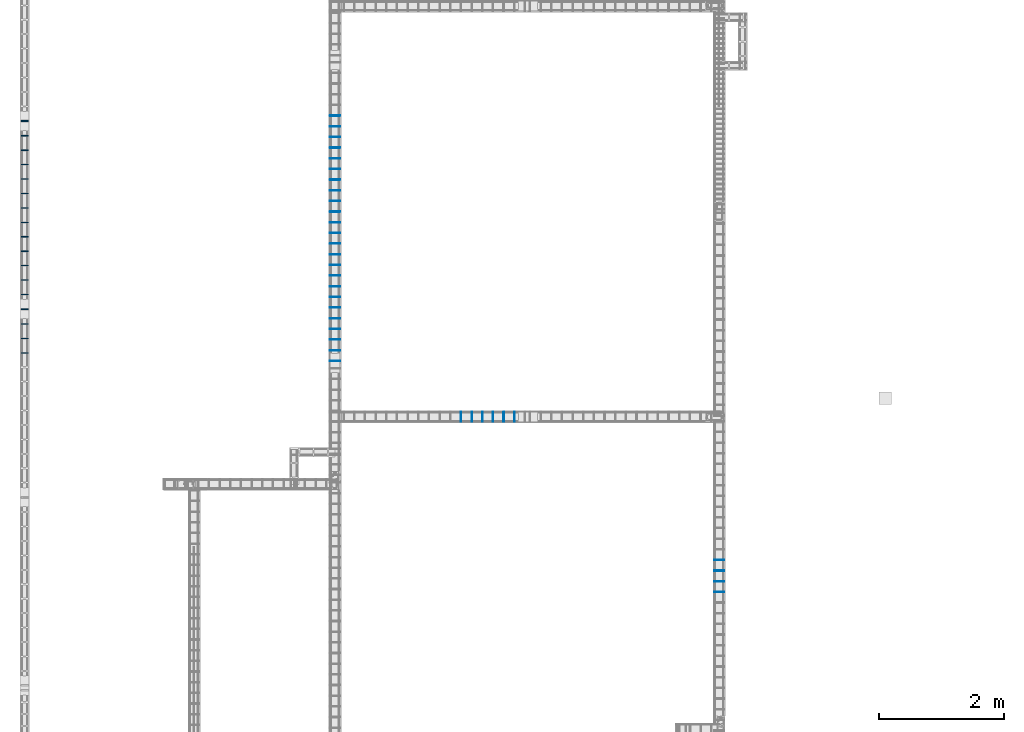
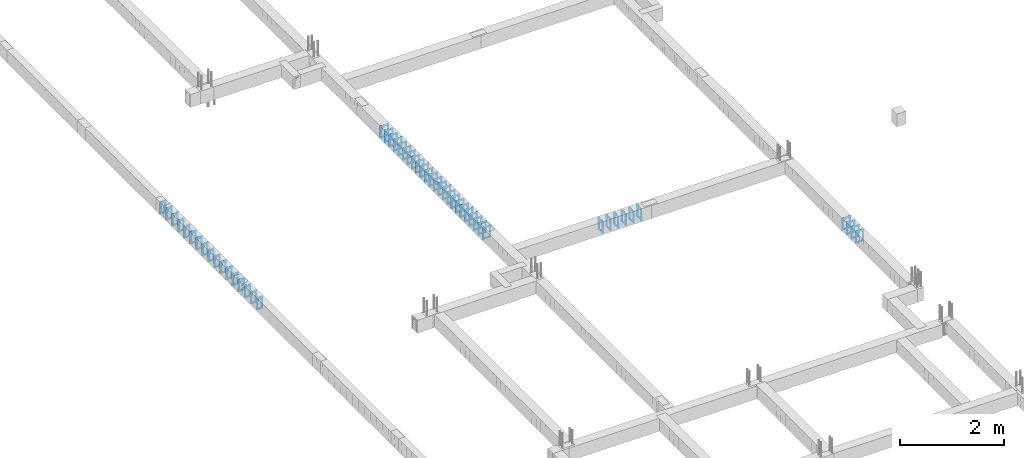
# One storey, part 59 of 150: 53 reinforcing bars.
"""IFC4 building model written with IfcOpenShell, lengths in centimetres."""

import ifcopenshell
import ifcopenshell.guid

model = None  # the IFC model being written
_history = None  # IfcOwnerHistory: only IFC2X3 demands one
_inside = {}  # id of a spatial element -> (the spatial element, [elements in it])
_under = {}  # id of a project, library or spatial element -> (it, [spatial elements below it])
_declared = {}  # id of a project -> (the project, [libraries it declares])
_typed = {}  # id of a type object -> (the type object, [elements of that type])
_made_of = {}  # id of a material, layer set ... -> (it, [elements and type objects made of it])


def new_model(schema):
    """Start an empty IFC model of exactly this schema.

    Asked for "IFC4X3", IfcOpenShell would pick the latest addendum, in which some entities
    have other attributes; the version numbers below select the first issue.
    IFC2X3 requires an IfcOwnerHistory on every rooted entity: one is made here for all.
    """
    global model, _history
    if schema == "IFC4X3":
        model = ifcopenshell.file(schema_version=(4, 3, 0, 0))
    else:
        model = ifcopenshell.file(schema=schema)
    _inside.clear()
    _under.clear()
    _declared.clear()
    _typed.clear()
    _made_of.clear()
    _history = None
    if model.schema == "IFC2X3":
        org = make("IfcOrganization", Name="unknown")
        user = make(
            "IfcPersonAndOrganization",
            ThePerson=make("IfcPerson", FamilyName="unknown"),
            TheOrganization=org,
        )
        app = make(
            "IfcApplication",
            ApplicationDeveloper=org,
            Version="unknown",
            ApplicationFullName="unknown",
            ApplicationIdentifier="unknown",
        )
        _history = make(
            "IfcOwnerHistory",
            OwningUser=user,
            OwningApplication=app,
            ChangeAction="ADDED",
            CreationDate=0,
        )
    return model


def make(cls, **values):
    """One entity of the class cls with the attributes given. An attribute that is None is left unset."""
    return model.create_entity(
        cls, **{name: value for name, value in values.items() if value is not None}
    )


def entity(cls, *values):
    """Any entity or typed value of the class cls, its attributes in the order of the schema. None: left unset."""
    e = model.create_entity(cls)
    for i, value in enumerate(values):
        if value is not None:
            e[i] = value
    return e


def rooted(cls, **values):
    """An entity with a GlobalId (a new one), such as an element, a storey or a relation."""
    return make(cls, GlobalId=ifcopenshell.guid.new(), OwnerHistory=_history, **values)


def si_unit(unit_type, name, prefix=None):
    """IfcSIUnit, for example si_unit("LENGTHUNIT", "METRE", prefix="MILLI")."""
    return make("IfcSIUnit", UnitType=unit_type, Prefix=prefix, Name=name)


def derived_unit(unit_type, elements):
    """IfcDerivedUnit: a product of units, each with its exponent."""
    return make(
        "IfcDerivedUnit",
        Elements=[
            make("IfcDerivedUnitElement", Unit=unit, Exponent=power)
            for unit, power in elements
        ],
        UnitType=unit_type,
    )


def assignment(units):
    """IfcUnitAssignment: the units of a project."""
    return None if units is None else make("IfcUnitAssignment", Units=units)


def point(xyz):
    """IfcCartesianPoint."""
    return None if xyz is None else make("IfcCartesianPoint", Coordinates=xyz)


def direction(xyz):
    """IfcDirection."""
    return None if xyz is None else make("IfcDirection", DirectionRatios=xyz)


def frame(location, z_axis=None, x_axis=None):
    """IfcAxis2Placement3D, a coordinate frame: its origin and axes. An axis left out is left unset."""
    return make(
        "IfcAxis2Placement3D",
        Location=point(location),
        Axis=direction(z_axis),
        RefDirection=direction(x_axis),
    )


def origin_with_axes():
    """The frame at (0, 0, 0) with the z axis (0, 0, 1) and the x axis (1, 0, 0) written out."""
    return frame((0.0, 0.0, 0.0), z_axis=(0.0, 0.0, 1.0), x_axis=(1.0, 0.0, 0.0))


def place(relative_to, where):
    """IfcLocalPlacement: puts the frame where relative to a parent placement (None: the world)."""
    return make(
        "IfcLocalPlacement", PlacementRelTo=relative_to, RelativePlacement=where
    )


def context(
    kind, dimensions, precision=None, world=None, true_north=None, identifier=None
):
    """IfcGeometricRepresentationContext, for example the 3D "Model" context."""
    return make(
        "IfcGeometricRepresentationContext",
        ContextIdentifier=identifier,
        ContextType=kind,
        CoordinateSpaceDimension=dimensions,
        Precision=precision,
        WorldCoordinateSystem=world,
        TrueNorth=true_north,
    )


def project(units=None, contexts=None):
    """IfcProject with its units and contexts."""
    return rooted(
        "IfcProject",
        Name="project",
        RepresentationContexts=contexts,
        UnitsInContext=assignment(units),
    )


def spatial(cls, under=None, at=None, **own):
    """A site, building, storey or space (cls), placed at a placement, below another one or the project."""
    s = rooted(cls, ObjectPlacement=at, **own)
    if under is not None:
        _under.setdefault(under.id(), (under, []))[1].append(s)
    return s


def shape(context_of_items, identifier, shape_type, items):
    """IfcShapeRepresentation: the items that make up one representation, for example the "Body"."""
    return make(
        "IfcShapeRepresentation",
        ContextOfItems=context_of_items,
        RepresentationIdentifier=identifier,
        RepresentationType=shape_type,
        Items=items,
    )


def source(mapping_origin, context_of_items, identifier, shape_type, items):
    """IfcRepresentationMap: a shape defined once, which mapped items show again and again."""
    return make(
        "IfcRepresentationMap",
        MappingOrigin=mapping_origin,
        MappedRepresentation=shape(context_of_items, identifier, shape_type, items),
    )


def transform(
    local_origin,
    x_axis=None,
    y_axis=None,
    z_axis=None,
    scale=None,
    scale2=None,
    scale3=None,
    uniform=True,
):
    """IfcCartesianTransformationOperator3D, or its non-uniform kind. x_axis, y_axis, z_axis: its Axis1, 2, 3."""
    if uniform:
        return make(
            "IfcCartesianTransformationOperator3D",
            Axis1=direction(x_axis),
            Axis2=direction(y_axis),
            LocalOrigin=point(local_origin),
            Scale=scale,
            Axis3=direction(z_axis),
        )
    return make(
        "IfcCartesianTransformationOperator3DnonUniform",
        Axis1=direction(x_axis),
        Axis2=direction(y_axis),
        LocalOrigin=point(local_origin),
        Scale=scale,
        Axis3=direction(z_axis),
        Scale2=scale2,
        Scale3=scale3,
    )


def mapped(mapping_source, mapping_target):
    """IfcMappedItem: shows the shape of a source again, moved by a transform."""
    return make(
        "IfcMappedItem", MappingSource=mapping_source, MappingTarget=mapping_target
    )


def made_of(thing, what):
    """Note that an element or type object is made of a material, layer set ...; save() writes the relation."""
    if what is not None:
        _made_of.setdefault(what.id(), (what, []))[1].append(thing)
    return thing


def element(
    cls,
    number,
    at=None,
    inside=None,
    cuts=None,
    type_object=None,
    material=None,
    context=None,
    identifier="Body",
    shape_type=None,
    held_by="IfcProductDefinitionShape",
    body=None,
    shapes=None,
    **own,
):
    """One element of the class cls, such as IfcWall. Its Tag is "e" and its number.

    at: its placement. inside: the storey or other place that contains it. cuts: it is an
    opening in that element (IfcRelVoidsElement). A single representation is given by context,
    identifier, shape_type and body (its items); several are given by shapes. held_by: the class
    of the entity that holds the representations. save() writes the other relations.
    """
    e = rooted(cls, Tag="e%d" % number, ObjectPlacement=at, **own)
    if body is not None:
        shapes = [shape(context, identifier, shape_type, body)]
    if shapes is not None:
        e.Representation = make(held_by, Representations=shapes)
    if inside is not None:
        _inside.setdefault(inside.id(), (inside, []))[1].append(e)
    if cuts is not None:
        rooted(
            "IfcRelVoidsElement", RelatingBuildingElement=cuts, RelatedOpeningElement=e
        )
    if type_object is not None:
        _typed.setdefault(type_object.id(), (type_object, []))[1].append(e)
    return made_of(e, material)


def aggregate(whole, parts):
    """IfcRelAggregates: a whole, such as a stair, and the parts it consists of."""
    return rooted("IfcRelAggregates", RelatingObject=whole, RelatedObjects=parts)


def save(model, path):
    """Write the relations noted so far, then the file.

    IfcRelAggregates (storeys below a building ...), IfcRelContainedInSpatialStructure (elements
    in a storey), IfcRelDefinesByType, IfcRelAssociatesMaterial and IfcRelDeclares: one each for
    every whole, place, type object, material and project.
    """
    for whole, parts in _under.values():
        aggregate(whole, parts)
    for where, things in _inside.values():
        rooted(
            "IfcRelContainedInSpatialStructure",
            RelatedElements=things,
            RelatingStructure=where,
        )
    for kind, things in _typed.values():
        rooted("IfcRelDefinesByType", RelatedObjects=things, RelatingType=kind)
    for what, things in _made_of.values():
        rooted("IfcRelAssociatesMaterial", RelatedObjects=things, RelatingMaterial=what)
    for by, libraries in _declared.values():
        rooted("IfcRelDeclares", RelatingContext=by, RelatedDefinitions=libraries)
    model.write(path)


model = new_model("IFC4")

# Units and contexts
model_context = context("Model", 3, precision=1e-05, world=origin_with_axes(), identifier="Body")
ifc_project = project(units=[si_unit("LENGTHUNIT", "METRE", prefix="CENTI"), si_unit("VOLUMEUNIT", "CUBIC_METRE"), si_unit("AREAUNIT", "SQUARE_METRE"), si_unit("POWERUNIT", "WATT"), si_unit("LUMINOUSFLUXUNIT", "LUMEN"), si_unit("ELECTRICCURRENTUNIT", "AMPERE"), si_unit("PRESSUREUNIT", "PASCAL", prefix="KILO"), si_unit("MASSUNIT", "GRAM", prefix="KILO"), si_unit("PLANEANGLEUNIT", "RADIAN"), derived_unit("VOLUMETRICFLOWRATEUNIT", [(si_unit("LENGTHUNIT", "METRE"), 3), (si_unit("TIMEUNIT", "SECOND"), -1)])], contexts=[model_context])

# Site, building, storey
site_placement = place(None, frame((-4000.0, 0.0, 0.0), z_axis=(0.0, 0.0, 1.0), x_axis=(1.0, 0.0, 0.0)))
site = spatial("IfcSite", under=ifc_project, at=site_placement, Name="PADRÃO")
building_placement = place(site_placement, frame((0.0, 0.0, -14.0)))
building = spatial("IfcBuilding", under=site, at=building_placement, Name="CRECHE PRÉ-ESCOLA TIPO 2")
placement = place(building_placement, origin_with_axes())
storey_placement = place(placement, frame((0.0, 0.0, 30.0), z_axis=(0.0, 0.0, 1.0), x_axis=(1.0, 0.0, 0.0)))
storey = spatial("IfcBuildingStorey", under=building, at=storey_placement, Name="VIGA BALDRAME", CompositionType="ELEMENT", Elevation=16.0)

# Reinforcing bars
shared_shape_1 = source(origin_with_axes(), model_context, "Body", "AdvancedSweptSolid", [
    entity("IfcSweptDiskSolid", entity("IfcCompositeCurve", [entity("IfcCompositeCurveSegment", "CONTINUOUS", True, entity("IfcPolyline", [entity("IfcCartesianPoint", [2.0, -6.0, 0.0]), entity("IfcCartesianPoint", [2.0, 0.0, 0.0])])), entity("IfcCompositeCurveSegment", "CONTINUOUS", True, entity("IfcPolyline", [entity("IfcCartesianPoint", [2.0, 0.0, 0.0]), entity("IfcCartesianPoint", [0.0, 0.0, 0.0])])), entity("IfcCompositeCurveSegment", "CONTINUOUS", True, entity("IfcPolyline", [entity("IfcCartesianPoint", [0.0, 0.0, 0.0]), entity("IfcCartesianPoint", [0.0, -25.5, 0.0])])), entity("IfcCompositeCurveSegment", "CONTINUOUS", True, entity("IfcPolyline", [entity("IfcCartesianPoint", [0.0, -25.5, 0.0]), entity("IfcCartesianPoint", [15.5, -25.5, 0.0])])), entity("IfcCompositeCurveSegment", "CONTINUOUS", True, entity("IfcPolyline", [entity("IfcCartesianPoint", [15.5, -25.5, 0.0]), entity("IfcCartesianPoint", [15.5, 0.0, 0.5])])), entity("IfcCompositeCurveSegment", "CONTINUOUS", True, entity("IfcPolyline", [entity("IfcCartesianPoint", [15.5, 0.0, 0.5]), entity("IfcCartesianPoint", [0.0, 0.0, 0.5])])), entity("IfcCompositeCurveSegment", "CONTINUOUS", True, entity("IfcPolyline", [entity("IfcCartesianPoint", [0.0, 0.0, 0.5]), entity("IfcCartesianPoint", [0.0, -2.0, 0.5])])), entity("IfcCompositeCurveSegment", "CONTINUOUS", True, entity("IfcPolyline", [entity("IfcCartesianPoint", [0.0, -2.0, 0.5]), entity("IfcCartesianPoint", [6.0, -2.0, 0.5])]))], False), 0.25),
])
for number, where, z_axis, x_axis, name in (
    (1, (495.94, 2403.0, -2.25), (0.0, -1.0, 0.0), (1.0, 0.0, 0.0), "V171 - Estribo"),
    (2, (495.94, 2386.0, -2.25), (0.0, -1.0, 0.0), (1.0, 0.0, 0.0), "V171 - Estribo"),
    (3, (495.94, 2369.0, -2.25), (0.0, -1.0, 0.0), (1.0, 0.0, 0.0), "V171 - Estribo"),
    (4, (495.94, 2352.0, -2.25), (0.0, -1.0, 0.0), (1.0, 0.0, 0.0), "V171 - Estribo"),
    (5, (495.94, 2335.0, -2.25), (0.0, -1.0, 0.0), (1.0, 0.0, 0.0), "V171 - Estribo"),
    (6, (495.94, 2318.0, -2.25), (0.0, -1.0, 0.0), (1.0, 0.0, 0.0), "V171 - Estribo"),
    (7, (495.94, 2301.0, -2.25), (0.0, -1.0, 0.0), (1.0, 0.0, 0.0), "V171 - Estribo"),
    (8, (495.94, 2284.0, -2.25), (0.0, -1.0, 0.0), (1.0, 0.0, 0.0), "V171 - Estribo"),
    (9, (495.94, 2267.0, -2.25), (0.0, -1.0, 0.0), (1.0, 0.0, 0.0), "V171 - Estribo"),
    (10, (495.94, 2165.0, -2.25), (0.0, -1.0, 0.0), (1.0, 0.0, 0.0), "V171 - Estribo"),
    (11, (495.94, 2250.0, -2.25), (0.0, -1.0, 0.0), (1.0, 0.0, 0.0), "V171 - Estribo"),
    (12, (495.94, 2233.0, -2.25), (0.0, -1.0, 0.0), (1.0, 0.0, 0.0), "V171 - Estribo"),
    (13, (495.94, 2216.0, -2.25), (0.0, -1.0, 0.0), (1.0, 0.0, 0.0), "V171 - Estribo"),
    (14, (495.94, 2199.0, -2.25), (0.0, -1.0, 0.0), (1.0, 0.0, 0.0), "V171 - Estribo"),
    (15, (495.94, 2182.0, -2.25), (0.0, -1.0, 0.0), (1.0, 0.0, 0.0), "V171 - Estribo"),
    (16, (495.94, 2148.0, -2.25), (0.0, -1.0, 0.0), (1.0, 0.0, 0.0), "V171 - Estribo"),
    (17, (495.94, 2131.0, -2.25), (0.0, -1.0, 0.0), (1.0, 0.0, 0.0), "V171 - Estribo"),
    (18, (495.94, 2114.0, -2.25), (0.0, -1.0, 0.0), (1.0, 0.0, 0.0), "V171 - Estribo"),
    (19, (495.94, 2097.0, -2.25), (0.0, -1.0, 0.0), (1.0, 0.0, 0.0), "V171 - Estribo"),
    (20, (495.94, 2080.0, -2.25), (0.0, -1.0, 0.0), (1.0, 0.0, 0.0), "V171 - Estribo"),
    (21, (495.94, 2063.0, -2.25), (0.0, -1.0, 0.0), (1.0, 0.0, 0.0), "V171 - Estribo"),
    (22, (495.94, 2046.0, -2.25), (0.0, -1.0, 0.0), (1.0, 0.0, 0.0), "V171 - Estribo"),
    (23, (495.94, 2029.0, -2.25), (0.0, -1.0, 0.0), (1.0, 0.0, 0.0), "V171 - Estribo"),
    (24, (495.94, 2012.0, -2.25), (0.0, -1.0, 0.0), (1.0, 0.0, 0.0), "V171 - Estribo"),
):
    element("IfcReinforcingBar", number, at=place(storey_placement, frame(where, z_axis=z_axis, x_axis=x_axis)), inside=storey, Name=name, BarLength=0.0, CrossSectionArea=1.9634954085e-05, NominalDiameter=0.5, PredefinedType="MAIN", context=model_context, shape_type="MappedRepresentation", body=[
        mapped(shared_shape_1, transform((0.0, 0.0, 0.0), scale=1.0)),
    ])
shared_shape_2 = source(origin_with_axes(), model_context, "Body", "AdvancedSweptSolid", [
    entity("IfcSweptDiskSolid", entity("IfcCompositeCurve", [entity("IfcCompositeCurveSegment", "CONTINUOUS", True, entity("IfcPolyline", [entity("IfcCartesianPoint", [2.0, -6.0, 0.0]), entity("IfcCartesianPoint", [2.0, 0.0, 0.0])])), entity("IfcCompositeCurveSegment", "CONTINUOUS", True, entity("IfcPolyline", [entity("IfcCartesianPoint", [2.0, 0.0, 0.0]), entity("IfcCartesianPoint", [0.0, 0.0, 0.0])])), entity("IfcCompositeCurveSegment", "CONTINUOUS", True, entity("IfcPolyline", [entity("IfcCartesianPoint", [0.0, 0.0, 0.0]), entity("IfcCartesianPoint", [0.0, -25.5, 0.0])])), entity("IfcCompositeCurveSegment", "CONTINUOUS", True, entity("IfcPolyline", [entity("IfcCartesianPoint", [0.0, -25.5, 0.0]), entity("IfcCartesianPoint", [15.5, -25.5, 0.0])])), entity("IfcCompositeCurveSegment", "CONTINUOUS", True, entity("IfcPolyline", [entity("IfcCartesianPoint", [15.5, -25.5, 0.0]), entity("IfcCartesianPoint", [15.5, 0.0, 0.5])])), entity("IfcCompositeCurveSegment", "CONTINUOUS", True, entity("IfcPolyline", [entity("IfcCartesianPoint", [15.5, 0.0, 0.5]), entity("IfcCartesianPoint", [0.0, 0.0, 0.5])])), entity("IfcCompositeCurveSegment", "CONTINUOUS", True, entity("IfcPolyline", [entity("IfcCartesianPoint", [0.0, 0.0, 0.5]), entity("IfcCartesianPoint", [0.0, -2.0, 0.5])])), entity("IfcCompositeCurveSegment", "CONTINUOUS", True, entity("IfcPolyline", [entity("IfcCartesianPoint", [0.0, -2.0, 0.5]), entity("IfcCartesianPoint", [6.0, -2.0, 0.5])]))], False), 0.25),
])
for number, where, z_axis, x_axis, name in (
    (25, (1108.25, 1694.5, -2.25), (0.0, -1.0, 0.0), (1.0, 0.0, 0.0), "V183 - Estribo"),
    (26, (1108.25, 1677.5, -2.25), (0.0, -1.0, 0.0), (1.0, 0.0, 0.0), "V183 - Estribo"),
    (27, (1108.25, 1660.5, -2.25), (0.0, -1.0, 0.0), (1.0, 0.0, 0.0), "V183 - Estribo"),
    (28, (1108.25, 1643.5, -2.25), (0.0, -1.0, 0.0), (1.0, 0.0, 0.0), "V183 - Estribo"),
):
    element("IfcReinforcingBar", number, at=place(storey_placement, frame(where, z_axis=z_axis, x_axis=x_axis)), inside=storey, Name=name, BarLength=0.0, CrossSectionArea=1.9634954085e-05, NominalDiameter=0.5, PredefinedType="MAIN", context=model_context, shape_type="MappedRepresentation", body=[
        mapped(shared_shape_2, transform((0.0, 0.0, 0.0), scale=1.0)),
    ])
shared_shape_3 = source(origin_with_axes(), model_context, "Body", "AdvancedSweptSolid", [
    entity("IfcSweptDiskSolid", entity("IfcCompositeCurve", [entity("IfcCompositeCurveSegment", "CONTINUOUS", True, entity("IfcPolyline", [entity("IfcCartesianPoint", [2.0, -6.0, 0.0]), entity("IfcCartesianPoint", [2.0, 0.0, 0.0])])), entity("IfcCompositeCurveSegment", "CONTINUOUS", True, entity("IfcPolyline", [entity("IfcCartesianPoint", [2.0, 0.0, 0.0]), entity("IfcCartesianPoint", [0.0, 0.0, 0.0])])), entity("IfcCompositeCurveSegment", "CONTINUOUS", True, entity("IfcPolyline", [entity("IfcCartesianPoint", [0.0, 0.0, 0.0]), entity("IfcCartesianPoint", [0.0, -25.5, 0.0])])), entity("IfcCompositeCurveSegment", "CONTINUOUS", True, entity("IfcPolyline", [entity("IfcCartesianPoint", [0.0, -25.5, 0.0]), entity("IfcCartesianPoint", [15.5, -25.5, 0.0])])), entity("IfcCompositeCurveSegment", "CONTINUOUS", True, entity("IfcPolyline", [entity("IfcCartesianPoint", [15.5, -25.5, 0.0]), entity("IfcCartesianPoint", [15.5, 0.0, 0.5])])), entity("IfcCompositeCurveSegment", "CONTINUOUS", True, entity("IfcPolyline", [entity("IfcCartesianPoint", [15.5, 0.0, 0.5]), entity("IfcCartesianPoint", [0.0, 0.0, 0.5])])), entity("IfcCompositeCurveSegment", "CONTINUOUS", True, entity("IfcPolyline", [entity("IfcCartesianPoint", [0.0, 0.0, 0.5]), entity("IfcCartesianPoint", [0.0, -2.0, 0.5])])), entity("IfcCompositeCurveSegment", "CONTINUOUS", True, entity("IfcPolyline", [entity("IfcCartesianPoint", [0.0, -2.0, 0.5]), entity("IfcCartesianPoint", [6.0, -2.0, 0.5])]))], False), 0.25),
])
for number, where, z_axis, x_axis, name in (
    (29, (773.04, 1930.25, -2.25), (-1.0, 0.0, 0.0), (0.0, -1.0, 0.0), "V125 - Estribo"),
    (30, (756.04, 1930.25, -2.25), (-1.0, 0.0, 0.0), (0.0, -1.0, 0.0), "V125 - Estribo"),
    (31, (739.04, 1930.25, -2.25), (-1.0, 0.0, 0.0), (0.0, -1.0, 0.0), "V125 - Estribo"),
    (32, (722.04, 1930.25, -2.25), (-1.0, 0.0, 0.0), (0.0, -1.0, 0.0), "V125 - Estribo"),
    (33, (705.04, 1930.25, -2.25), (-1.0, 0.0, 0.0), (0.0, -1.0, 0.0), "V125 - Estribo"),
    (34, (790.04, 1930.25, -2.25), (-1.0, 0.0, 0.0), (0.0, -1.0, 0.0), "V125 - Estribo"),
):
    element("IfcReinforcingBar", number, at=place(storey_placement, frame(where, z_axis=z_axis, x_axis=x_axis)), inside=storey, Name=name, BarLength=0.0, CrossSectionArea=1.9634954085e-05, NominalDiameter=0.5, PredefinedType="MAIN", context=model_context, shape_type="MappedRepresentation", body=[
        mapped(shared_shape_3, transform((0.0, 0.0, 0.0), scale=1.0)),
    ])
shared_shape_4 = source(origin_with_axes(), model_context, "Body", "AdvancedSweptSolid", [
    entity("IfcSweptDiskSolid", entity("IfcCompositeCurve", [entity("IfcCompositeCurveSegment", "CONTINUOUS", True, entity("IfcPolyline", [entity("IfcCartesianPoint", [2.0, -6.0, 0.0]), entity("IfcCartesianPoint", [2.0, 0.0, 0.0])])), entity("IfcCompositeCurveSegment", "CONTINUOUS", True, entity("IfcPolyline", [entity("IfcCartesianPoint", [2.0, 0.0, 0.0]), entity("IfcCartesianPoint", [0.0, 0.0, 0.0])])), entity("IfcCompositeCurveSegment", "CONTINUOUS", True, entity("IfcPolyline", [entity("IfcCartesianPoint", [0.0, 0.0, 0.0]), entity("IfcCartesianPoint", [0.0, -25.5, 0.0])])), entity("IfcCompositeCurveSegment", "CONTINUOUS", True, entity("IfcPolyline", [entity("IfcCartesianPoint", [0.0, -25.5, 0.0]), entity("IfcCartesianPoint", [10.5, -25.5, 0.0])])), entity("IfcCompositeCurveSegment", "CONTINUOUS", True, entity("IfcPolyline", [entity("IfcCartesianPoint", [10.5, -25.5, 0.0]), entity("IfcCartesianPoint", [10.5, 0.0, 0.5])])), entity("IfcCompositeCurveSegment", "CONTINUOUS", True, entity("IfcPolyline", [entity("IfcCartesianPoint", [10.5, 0.0, 0.5]), entity("IfcCartesianPoint", [0.0, 0.0, 0.5])])), entity("IfcCompositeCurveSegment", "CONTINUOUS", True, entity("IfcPolyline", [entity("IfcCartesianPoint", [0.0, 0.0, 0.5]), entity("IfcCartesianPoint", [0.0, -2.0, 0.5])])), entity("IfcCompositeCurveSegment", "CONTINUOUS", True, entity("IfcPolyline", [entity("IfcCartesianPoint", [0.0, -2.0, 0.5]), entity("IfcCartesianPoint", [6.0, -2.0, 0.5])]))], False), 0.25),
])
for number, where, z_axis, x_axis, name in (
    (35, (3.75, 2025.0, -2.25), (0.0, -1.0, 0.0), (1.0, 0.0, 0.0), "V159 - Estribo"),
    (36, (3.75, 2048.0, -2.25), (0.0, -1.0, 0.0), (1.0, 0.0, 0.0), "V159 - Estribo"),
    (37, (3.75, 2071.0, -2.25), (0.0, -1.0, 0.0), (1.0, 0.0, 0.0), "V159 - Estribo"),
    (38, (3.75, 2094.0, -2.25), (0.0, -1.0, 0.0), (1.0, 0.0, 0.0), "V159 - Estribo"),
):
    element("IfcReinforcingBar", number, at=place(storey_placement, frame(where, z_axis=z_axis, x_axis=x_axis)), inside=storey, Name=name, BarLength=0.0, CrossSectionArea=1.9634954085e-05, NominalDiameter=0.5, PredefinedType="MAIN", context=model_context, shape_type="MappedRepresentation", body=[
        mapped(shared_shape_4, transform((0.0, 0.0, 0.0), scale=1.0)),
    ])
shared_shape_5 = source(origin_with_axes(), model_context, "Body", "AdvancedSweptSolid", [
    entity("IfcSweptDiskSolid", entity("IfcCompositeCurve", [entity("IfcCompositeCurveSegment", "CONTINUOUS", True, entity("IfcPolyline", [entity("IfcCartesianPoint", [2.0, -6.0, 0.0]), entity("IfcCartesianPoint", [2.0, 0.0, 0.0])])), entity("IfcCompositeCurveSegment", "CONTINUOUS", True, entity("IfcPolyline", [entity("IfcCartesianPoint", [2.0, 0.0, 0.0]), entity("IfcCartesianPoint", [0.0, 0.0, 0.0])])), entity("IfcCompositeCurveSegment", "CONTINUOUS", True, entity("IfcPolyline", [entity("IfcCartesianPoint", [0.0, 0.0, 0.0]), entity("IfcCartesianPoint", [0.0, -25.5, 0.0])])), entity("IfcCompositeCurveSegment", "CONTINUOUS", True, entity("IfcPolyline", [entity("IfcCartesianPoint", [0.0, -25.5, 0.0]), entity("IfcCartesianPoint", [10.5, -25.5, 0.0])])), entity("IfcCompositeCurveSegment", "CONTINUOUS", True, entity("IfcPolyline", [entity("IfcCartesianPoint", [10.5, -25.5, 0.0]), entity("IfcCartesianPoint", [10.5, 0.0, 0.5])])), entity("IfcCompositeCurveSegment", "CONTINUOUS", True, entity("IfcPolyline", [entity("IfcCartesianPoint", [10.5, 0.0, 0.5]), entity("IfcCartesianPoint", [0.0, 0.0, 0.5])])), entity("IfcCompositeCurveSegment", "CONTINUOUS", True, entity("IfcPolyline", [entity("IfcCartesianPoint", [0.0, 0.0, 0.5]), entity("IfcCartesianPoint", [0.0, -2.0, 0.5])])), entity("IfcCompositeCurveSegment", "CONTINUOUS", True, entity("IfcPolyline", [entity("IfcCartesianPoint", [0.0, -2.0, 0.5]), entity("IfcCartesianPoint", [6.0, -2.0, 0.5])]))], False), 0.25),
])
for number, where, z_axis, x_axis, name in (
    (39, (3.75, 2095.0, -2.25), (0.0, -1.0, 0.0), (1.0, 0.0, 0.0), "V159 - Estribo"),
    (40, (3.75, 2118.0, -2.25), (0.0, -1.0, 0.0), (1.0, 0.0, 0.0), "V159 - Estribo"),
    (41, (3.75, 2141.0, -2.25), (0.0, -1.0, 0.0), (1.0, 0.0, 0.0), "V159 - Estribo"),
    (42, (3.75, 2164.0, -2.25), (0.0, -1.0, 0.0), (1.0, 0.0, 0.0), "V159 - Estribo"),
    (43, (3.75, 2187.0, -2.25), (0.0, -1.0, 0.0), (1.0, 0.0, 0.0), "V159 - Estribo"),
    (44, (3.75, 2210.0, -2.25), (0.0, -1.0, 0.0), (1.0, 0.0, 0.0), "V159 - Estribo"),
    (45, (3.75, 2233.0, -2.25), (0.0, -1.0, 0.0), (1.0, 0.0, 0.0), "V159 - Estribo"),
    (46, (3.75, 2256.0, -2.25), (0.0, -1.0, 0.0), (1.0, 0.0, 0.0), "V159 - Estribo"),
    (47, (3.75, 2279.0, -2.25), (0.0, -1.0, 0.0), (1.0, 0.0, 0.0), "V159 - Estribo"),
    (48, (3.75, 2302.0, -2.25), (0.0, -1.0, 0.0), (1.0, 0.0, 0.0), "V159 - Estribo"),
    (49, (3.75, 2325.0, -2.25), (0.0, -1.0, 0.0), (1.0, 0.0, 0.0), "V159 - Estribo"),
    (50, (3.75, 2348.0, -2.25), (0.0, -1.0, 0.0), (1.0, 0.0, 0.0), "V159 - Estribo"),
    (51, (3.75, 2371.0, -2.25), (0.0, -1.0, 0.0), (1.0, 0.0, 0.0), "V159 - Estribo"),
    (52, (3.75, 2394.0, -2.25), (0.0, -1.0, 0.0), (1.0, 0.0, 0.0), "V159 - Estribo"),
):
    element("IfcReinforcingBar", number, at=place(storey_placement, frame(where, z_axis=z_axis, x_axis=x_axis)), inside=storey, Name=name, BarLength=0.0, CrossSectionArea=1.9634954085e-05, NominalDiameter=0.5, PredefinedType="MAIN", context=model_context, shape_type="MappedRepresentation", body=[
        mapped(shared_shape_5, transform((0.0, 0.0, 0.0), scale=1.0)),
    ])
shared_shape_6 = source(origin_with_axes(), model_context, "Body", "AdvancedSweptSolid", [
    entity("IfcSweptDiskSolid", entity("IfcCompositeCurve", [entity("IfcCompositeCurveSegment", "CONTINUOUS", True, entity("IfcPolyline", [entity("IfcCartesianPoint", [2.0, -6.0, 0.0]), entity("IfcCartesianPoint", [2.0, 0.0, 0.0])])), entity("IfcCompositeCurveSegment", "CONTINUOUS", True, entity("IfcPolyline", [entity("IfcCartesianPoint", [2.0, 0.0, 0.0]), entity("IfcCartesianPoint", [0.0, 0.0, 0.0])])), entity("IfcCompositeCurveSegment", "CONTINUOUS", True, entity("IfcPolyline", [entity("IfcCartesianPoint", [0.0, 0.0, 0.0]), entity("IfcCartesianPoint", [0.0, -25.5, 0.0])])), entity("IfcCompositeCurveSegment", "CONTINUOUS", True, entity("IfcPolyline", [entity("IfcCartesianPoint", [0.0, -25.5, 0.0]), entity("IfcCartesianPoint", [10.5, -25.5, 0.0])])), entity("IfcCompositeCurveSegment", "CONTINUOUS", True, entity("IfcPolyline", [entity("IfcCartesianPoint", [10.5, -25.5, 0.0]), entity("IfcCartesianPoint", [10.5, 0.0, 0.5])])), entity("IfcCompositeCurveSegment", "CONTINUOUS", True, entity("IfcPolyline", [entity("IfcCartesianPoint", [10.5, 0.0, 0.5]), entity("IfcCartesianPoint", [0.0, 0.0, 0.5])])), entity("IfcCompositeCurveSegment", "CONTINUOUS", True, entity("IfcPolyline", [entity("IfcCartesianPoint", [0.0, 0.0, 0.5]), entity("IfcCartesianPoint", [0.0, -2.0, 0.5])])), entity("IfcCompositeCurveSegment", "CONTINUOUS", True, entity("IfcPolyline", [entity("IfcCartesianPoint", [0.0, -2.0, 0.5]), entity("IfcCartesianPoint", [6.0, -2.0, 0.5])]))], False), 0.25),
])
reinforcing_bar_placement = place(storey_placement, frame((3.75, 2395.0, -2.25), z_axis=(0.0, -1.0, 0.0), x_axis=(1.0, 0.0, 0.0)))
element("IfcReinforcingBar", 53, at=reinforcing_bar_placement, inside=storey, Name="V159 - Estribo", BarLength=0.0, CrossSectionArea=1.9634954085e-05, NominalDiameter=0.5, PredefinedType="MAIN", context=model_context, shape_type="MappedRepresentation", body=[
    mapped(shared_shape_6, transform((0.0, 0.0, 0.0), scale=1.0)),
])

save(model, "model.ifc")
